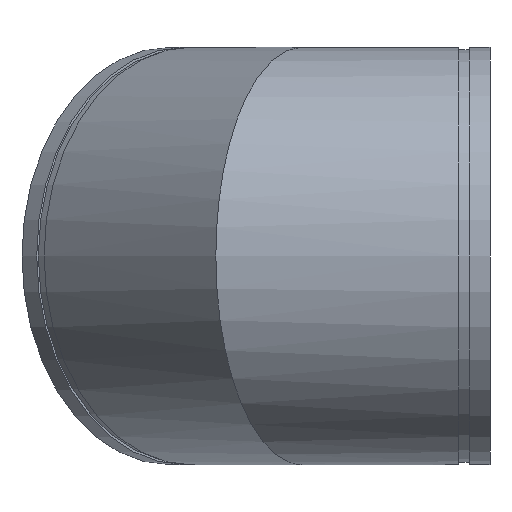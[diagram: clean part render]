
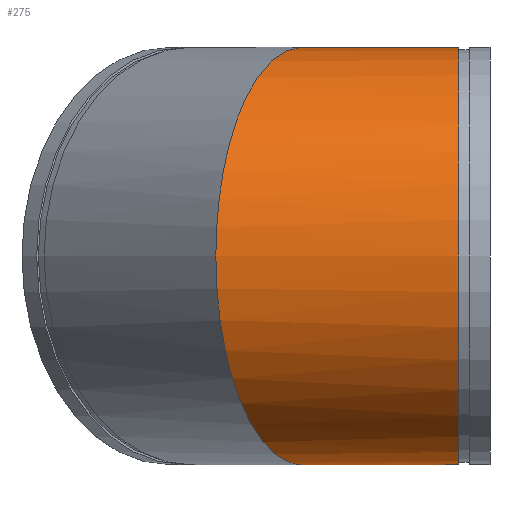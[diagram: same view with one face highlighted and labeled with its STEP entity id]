
A CAD part, left-side view. The second image highlights one B-rep face of the part: STEP entity #275.
In plain terms, the highlighted cylindrical face has radius 254 mm (diameter 508 mm), a full revolution.
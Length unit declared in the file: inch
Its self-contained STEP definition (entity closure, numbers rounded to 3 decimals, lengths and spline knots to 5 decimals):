
#48=ELLIPSE('',#329,10.82392,10.);
#49=ELLIPSE('',#330,10.82392,10.);
#50=ELLIPSE('',#331,10.82392,10.);
#73=FACE_OUTER_BOUND('',#91,.T.);
#91=EDGE_LOOP('',(#225,#226,#227,#228,#229,#230));
#103=LINE('',#513,#111);
#111=VECTOR('',#416,10.);
#117=CIRCLE('',#305,10.);
#133=VERTEX_POINT('',#468);
#148=VERTEX_POINT('',#512);
#149=VERTEX_POINT('',#514);
#150=VERTEX_POINT('',#516);
#156=EDGE_CURVE('',#133,#133,#117,.T.);
#176=EDGE_CURVE('',#133,#148,#103,.T.);
#177=EDGE_CURVE('',#148,#149,#48,.T.);
#178=EDGE_CURVE('',#150,#149,#49,.T.);
#179=EDGE_CURVE('',#150,#148,#50,.T.);
#225=ORIENTED_EDGE('',*,*,#156,.T.);
#226=ORIENTED_EDGE('',*,*,#176,.T.);
#227=ORIENTED_EDGE('',*,*,#177,.T.);
#228=ORIENTED_EDGE('',*,*,#178,.F.);
#229=ORIENTED_EDGE('',*,*,#179,.T.);
#230=ORIENTED_EDGE('',*,*,#176,.F.);
#247=CYLINDRICAL_SURFACE('',#328,10.);
#275=ADVANCED_FACE('',(#73),#247,.T.);
#305=AXIS2_PLACEMENT_3D('',#469,#363,#364);
#328=AXIS2_PLACEMENT_3D('',#511,#414,#415);
#329=AXIS2_PLACEMENT_3D('',#515,#417,#418);
#330=AXIS2_PLACEMENT_3D('',#517,#419,#420);
#331=AXIS2_PLACEMENT_3D('',#518,#421,#422);
#363=DIRECTION('center_axis',(0.,1.,0.));
#364=DIRECTION('ref_axis',(1.,0.,0.));
#414=DIRECTION('center_axis',(0.,-1.,0.));
#415=DIRECTION('ref_axis',(1.,0.,0.));
#416=DIRECTION('',(0.,1.,0.));
#417=DIRECTION('center_axis',(-0.383,-0.924,0.));
#418=DIRECTION('ref_axis',(0.924,-0.383,0.));
#419=DIRECTION('center_axis',(0.383,0.924,0.));
#420=DIRECTION('ref_axis',(0.924,-0.383,0.));
#421=DIRECTION('center_axis',(-0.383,-0.924,0.));
#422=DIRECTION('ref_axis',(0.924,-0.383,0.));
#468=CARTESIAN_POINT('',(-10.,-7.5,0.));
#469=CARTESIAN_POINT('Origin',(0.,-7.5,0.));
#511=CARTESIAN_POINT('Origin',(0.,0.,0.));
#512=CARTESIAN_POINT('',(-10.,4.14214,0.));
#513=CARTESIAN_POINT('',(-10.,0.,0.));
#514=CARTESIAN_POINT('',(0.,0.,-10.));
#515=CARTESIAN_POINT('Origin',(0.,0.,
0.));
#516=CARTESIAN_POINT('',(0.,0.,10.));
#517=CARTESIAN_POINT('Origin',(0.,0.,0.));
#518=CARTESIAN_POINT('Origin',(0.,0.,
0.));
